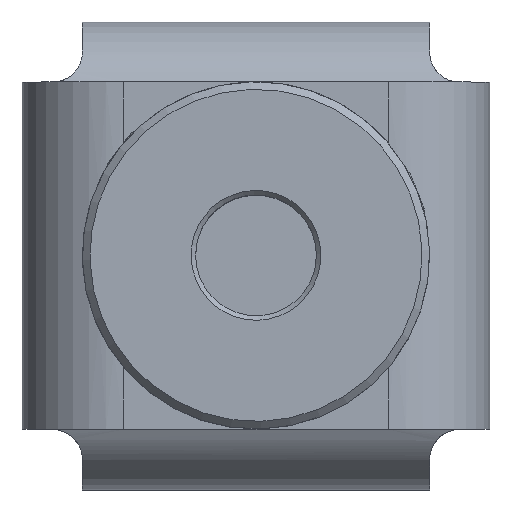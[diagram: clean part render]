
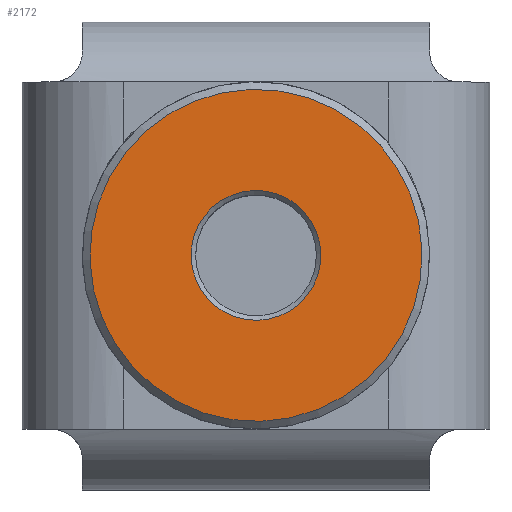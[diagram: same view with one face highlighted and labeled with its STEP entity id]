
A CAD part, top view. The second image highlights one B-rep face of the part: STEP entity #2172.
In plain terms, the highlighted planar face has unit normal (0, 0, 1).
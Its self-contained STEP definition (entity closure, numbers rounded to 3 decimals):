
#434=PLANE('',#2405);
#491=FACE_BOUND('',#800,.T.);
#612=FACE_OUTER_BOUND('',#799,.T.);
#799=EDGE_LOOP('',(#1793));
#800=EDGE_LOOP('',(#1794));
#940=CIRCLE('',#2403,11.);
#942=CIRCLE('',#2406,4.3);
#1107=VERTEX_POINT('',#3859);
#1109=VERTEX_POINT('',#3864);
#1358=EDGE_CURVE('',#1107,#1107,#940,.T.);
#1360=EDGE_CURVE('',#1109,#1109,#942,.T.);
#1793=ORIENTED_EDGE('',*,*,#1358,.F.);
#1794=ORIENTED_EDGE('',*,*,#1360,.F.);
#2172=ADVANCED_FACE('',(#612,#491),#434,.F.);
#2403=AXIS2_PLACEMENT_3D('',#3860,#2938,#2939);
#2405=AXIS2_PLACEMENT_3D('',#3863,#2942,#2943);
#2406=AXIS2_PLACEMENT_3D('',#3865,#2944,#2945);
#2938=DIRECTION('center_axis',(0.,0.,
-1.));
#2939=DIRECTION('ref_axis',(-0.62,-0.784,0.));
#2942=DIRECTION('center_axis',(0.,0.,
-1.));
#2943=DIRECTION('ref_axis',(-0.62,-0.784,0.));
#2944=DIRECTION('center_axis',(0.,0.,
1.));
#2945=DIRECTION('ref_axis',(-0.62,-0.784,0.));
#3859=CARTESIAN_POINT('',(-31.974,1.091,24.302));
#3860=CARTESIAN_POINT('Origin',(-38.796,-7.539,24.302));
#3863=CARTESIAN_POINT('Origin',(-38.796,-7.539,24.302));
#3864=CARTESIAN_POINT('',(-36.129,-4.165,24.302));
#3865=CARTESIAN_POINT('Origin',(-38.796,-7.539,24.302));
